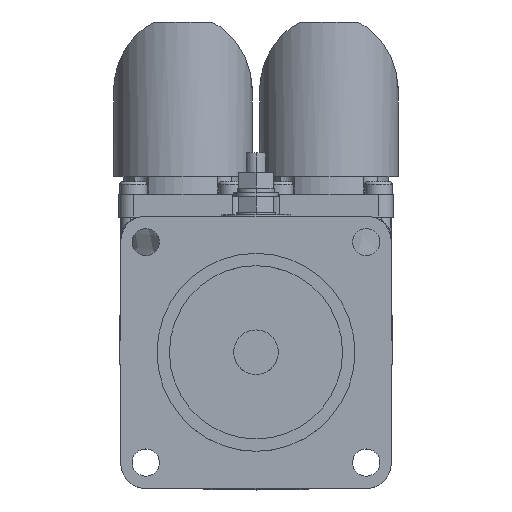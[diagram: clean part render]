
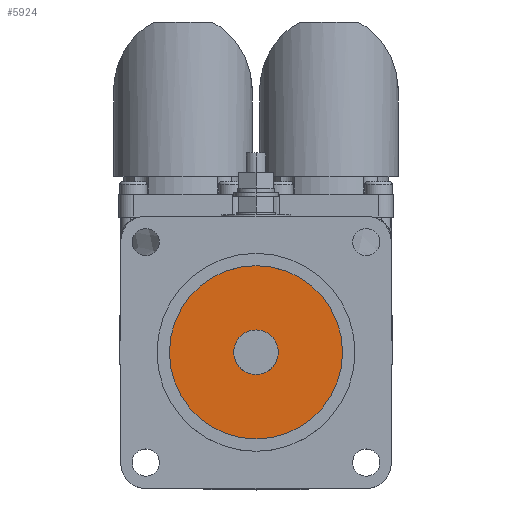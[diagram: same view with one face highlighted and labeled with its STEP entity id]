
A CAD part, top view. The second image highlights one B-rep face of the part: STEP entity #5924.
In plain terms, the highlighted planar face has unit normal (0, 0, 1).
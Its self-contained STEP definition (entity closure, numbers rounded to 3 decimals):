
#1028 = CIRCLE ( 'NONE', #1594, 17.5 ) ;
#1035 = CIRCLE ( 'NONE', #1598, 4.5 ) ;
#1071 = CIRCLE ( 'NONE', #1596, 17.5 ) ;
#1081 = CIRCLE ( 'NONE', #1613, 4.5 ) ;
#1594 = AXIS2_PLACEMENT_3D ( 'NONE', #3369, #3370, #3371 ) ;
#1596 = AXIS2_PLACEMENT_3D ( 'NONE', #3434, #3436, #3437 ) ;
#1598 = AXIS2_PLACEMENT_3D ( 'NONE', #3380, #3381, #3382 ) ;
#1613 = AXIS2_PLACEMENT_3D ( 'NONE', #3492, #3514, #3515 ) ;
#2276 = CARTESIAN_POINT ( 'NONE',  ( 4.5, 0., 106.5 ) ) ;
#2277 = CARTESIAN_POINT ( 'NONE',  ( -4.5, 0., 106.5 ) ) ;
#3369 = CARTESIAN_POINT ( 'NONE',  ( 0., 0., 106.5 ) ) ;
#3370 = DIRECTION ( 'NONE',  ( 0., 0., 1. ) ) ;
#3371 = DIRECTION ( 'NONE',  ( 1., 0., 0. ) ) ;
#3380 = CARTESIAN_POINT ( 'NONE',  ( 0., 0., 106.5 ) ) ;
#3381 = DIRECTION ( 'NONE',  ( 0., 0., 1. ) ) ;
#3382 = DIRECTION ( 'NONE',  ( 1., 0., 0. ) ) ;
#3434 = CARTESIAN_POINT ( 'NONE',  ( 0., 0., 106.5 ) ) ;
#3436 = DIRECTION ( 'NONE',  ( 0., 0., 1. ) ) ;
#3437 = DIRECTION ( 'NONE',  ( 1., 0., 0. ) ) ;
#3492 = CARTESIAN_POINT ( 'NONE',  ( 0., 0., 106.5 ) ) ;
#3514 = DIRECTION ( 'NONE',  ( 0., 0., 1. ) ) ;
#3515 = DIRECTION ( 'NONE',  ( 1., 0., 0. ) ) ;
#5341 = CARTESIAN_POINT ( 'NONE',  ( -17.5, 0., 106.5 ) ) ;
#5348 = CARTESIAN_POINT ( 'NONE',  ( 17.5, 0., 106.5 ) ) ;
#5924 = ADVANCED_FACE ( 'NONE', ( #8120, #8125 ), #11018, .T. ) ;
#8120 = FACE_OUTER_BOUND ( 'NONE', #13038, .T. ) ;
#8125 = FACE_BOUND ( 'NONE', #13034, .T. ) ;
#10056 = AXIS2_PLACEMENT_3D ( 'NONE', #11017, #11019, #11020 ) ;
#11017 = CARTESIAN_POINT ( 'NONE',  ( 0., 0., 106.5 ) ) ;
#11018 = PLANE ( 'NONE',  #10056 ) ;
#11019 = DIRECTION ( 'NONE',  ( 0., 0., 1. ) ) ;
#11020 = DIRECTION ( 'NONE',  ( 1., 0., 0. ) ) ;
#11386 = VERTEX_POINT ( 'NONE', #2276 ) ;
#11387 = VERTEX_POINT ( 'NONE', #2277 ) ;
#12639 = ORIENTED_EDGE ( 'NONE', *, *, #13154, .T. ) ;
#12640 = ORIENTED_EDGE ( 'NONE', *, *, #13127, .T. ) ;
#12641 = ORIENTED_EDGE ( 'NONE', *, *, #13131, .F. ) ;
#12642 = ORIENTED_EDGE ( 'NONE', *, *, #13167, .F. ) ;
#13034 = EDGE_LOOP ( 'NONE', ( #12641, #12642 ) ) ;
#13038 = EDGE_LOOP ( 'NONE', ( #12639, #12640 ) ) ;
#13127 = EDGE_CURVE ( 'NONE', #13500, #13507, #1028, .T. ) ;
#13131 = EDGE_CURVE ( 'NONE', #11387, #11386, #1035, .T. ) ;
#13154 = EDGE_CURVE ( 'NONE', #13507, #13500, #1071, .T. ) ;
#13167 = EDGE_CURVE ( 'NONE', #11386, #11387, #1081, .T. ) ;
#13500 = VERTEX_POINT ( 'NONE', #5341 ) ;
#13507 = VERTEX_POINT ( 'NONE', #5348 ) ;
